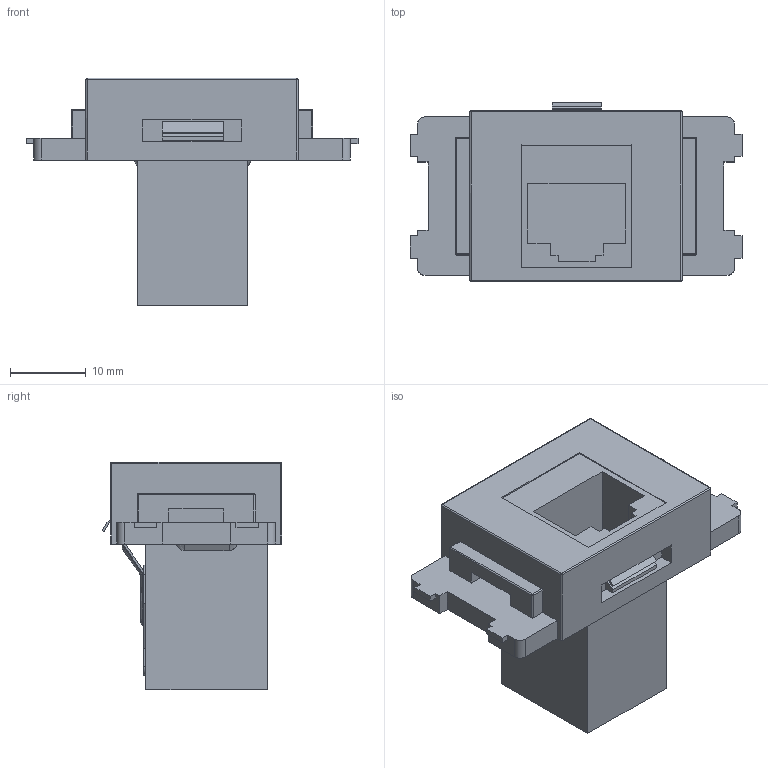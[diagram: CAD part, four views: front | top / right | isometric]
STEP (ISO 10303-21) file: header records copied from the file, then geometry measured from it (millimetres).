
FILE_DESCRIPTION(('FreeCAD Model'),'2;1');
FILE_NAME('Open CASCADE Shape Model','2026-05-12T10:25:32',(''),(''), 'Open CASCADE STEP processor 7.8','FreeCAD','Unknown');
FILE_SCHEMA(('AUTOMOTIVE_DESIGN { 1 0 10303 214 1 1 1 1 }'));
Length unit declared in the file: millimetre
Products named in the file (3): CC_C6S_WH_KH; SY-NWT-KH-xx; 3013AJSLQF6WH
Assembly tree (2 placements, depth 2):
  CC_C6S_WH_KH
    SY-NWT-KH-xx
    3013AJSLQF6WH
Bounding box: 43.95 x 23.76 x 30.15 mm (x, y, z)
Volume: 7950.4 mm3; surface area: 7521.8 mm2
Topology: 2 solids, 2 shells, 244 faces, 680 edges, 438 vertices
Faces by surface type: bspline 244
Entity records: 11788 total; most frequent: CARTESIAN_POINT 7615, ORIENTED_EDGE 1352, EDGE_CURVE 676, B_SPLINE_CURVE_WITH_KNOTS 676, VERTEX_POINT 438, FACE_BOUND 256, EDGE_LOOP 256, ADVANCED_FACE 244
